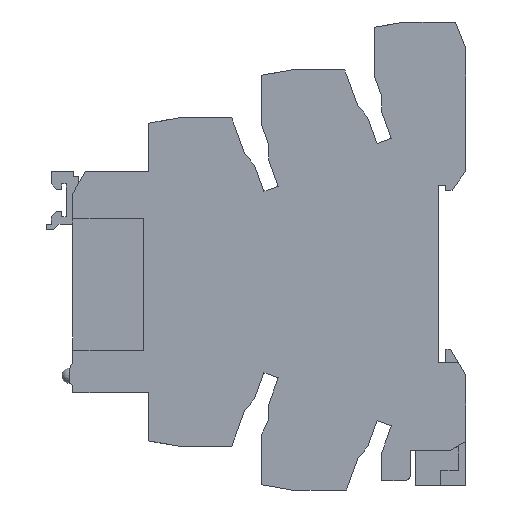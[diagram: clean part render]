
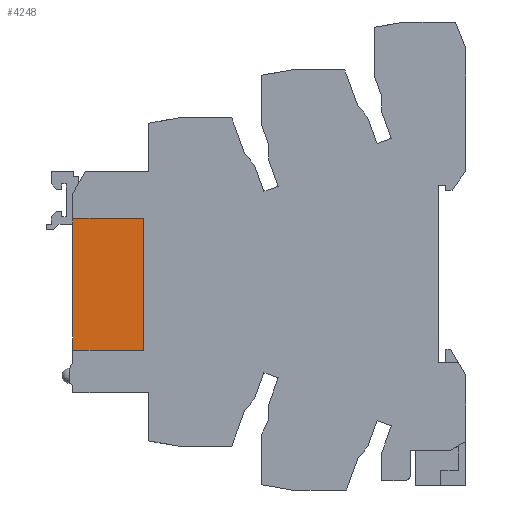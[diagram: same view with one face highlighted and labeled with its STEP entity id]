
A CAD part, left-side view. The second image highlights one B-rep face of the part: STEP entity #4248.
In plain terms, the highlighted planar face has unit normal (-1, 0, 0).
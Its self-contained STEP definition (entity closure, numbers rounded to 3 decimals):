
#158=PLANE('',#4540);
#374=FACE_OUTER_BOUND('',#595,.T.);
#595=EDGE_LOOP('',(#3548,#3549,#3550,#3551));
#1041=LINE('',#6480,#1572);
#1049=LINE('',#6495,#1580);
#1050=LINE('',#6497,#1581);
#1051=LINE('',#6498,#1582);
#1572=VECTOR('',#5341,10.);
#1580=VECTOR('',#5353,10.);
#1581=VECTOR('',#5356,10.);
#1582=VECTOR('',#5357,10.);
#2044=VERTEX_POINT('',#6477);
#2045=VERTEX_POINT('',#6479);
#2049=VERTEX_POINT('',#6491);
#2050=VERTEX_POINT('',#6493);
#2562=EDGE_CURVE('',#2044,#2045,#1041,.T.);
#2570=EDGE_CURVE('',#2049,#2050,#1049,.T.);
#2571=EDGE_CURVE('',#2044,#2049,#1050,.T.);
#2572=EDGE_CURVE('',#2045,#2050,#1051,.T.);
#3548=ORIENTED_EDGE('',*,*,#2571,.T.);
#3549=ORIENTED_EDGE('',*,*,#2570,.T.);
#3550=ORIENTED_EDGE('',*,*,#2572,.F.);
#3551=ORIENTED_EDGE('',*,*,#2562,.F.);
#4248=ADVANCED_FACE('',(#374),#158,.T.);
#4540=AXIS2_PLACEMENT_3D('',#6496,#5354,#5355);
#5341=DIRECTION('',(0.,1.,0.));
#5353=DIRECTION('',(0.,1.,0.));
#5354=DIRECTION('center_axis',(-1.,0.,0.));
#5355=DIRECTION('ref_axis',(0.,0.,1.));
#5356=DIRECTION('',(0.,0.,1.));
#5357=DIRECTION('',(0.,0.,1.));
#6477=CARTESIAN_POINT('',(-2.5,45.659,-25.338));
#6479=CARTESIAN_POINT('',(-2.5,59.659,-25.338));
#6480=CARTESIAN_POINT('',(-2.5,45.659,-25.338));
#6491=CARTESIAN_POINT('',(-2.5,45.659,2.662));
#6493=CARTESIAN_POINT('',(-2.5,59.659,2.662));
#6495=CARTESIAN_POINT('',(-2.5,45.659,2.662));
#6496=CARTESIAN_POINT('Origin',(-2.5,45.659,-25.338));
#6497=CARTESIAN_POINT('',(-2.5,45.659,-25.338));
#6498=CARTESIAN_POINT('',(-2.5,59.659,-25.338));
